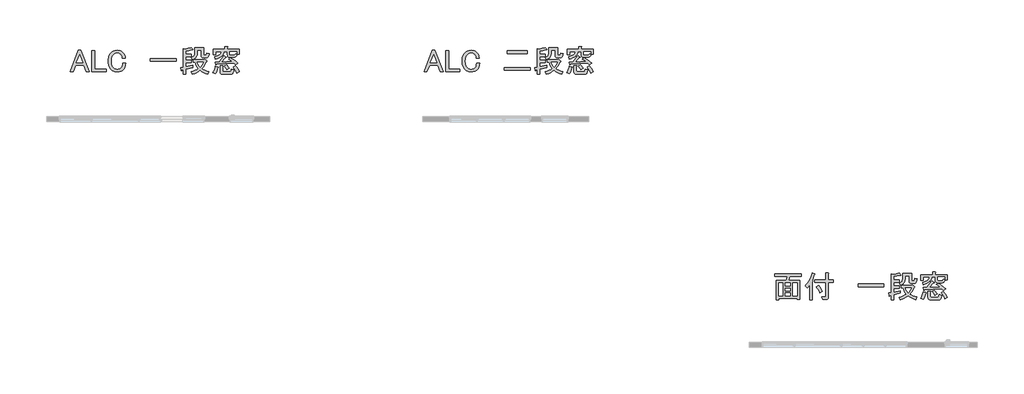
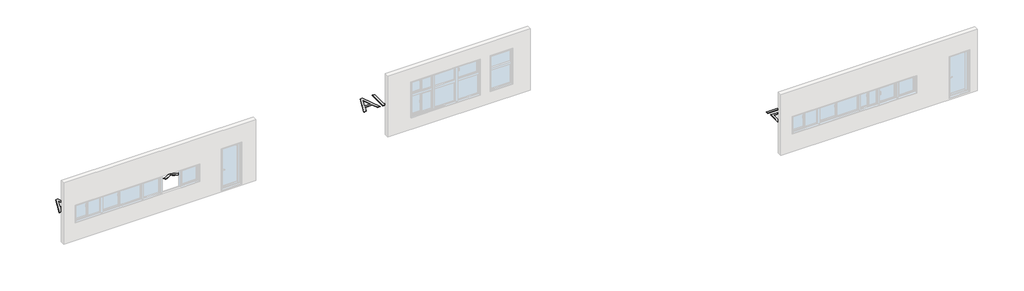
# One storey, part 6 of 9: 3 proxies.
"""IFC4 building model written with IfcOpenShell, lengths in millimetres."""

from ifc_helpers import new_model, si_unit, origin, origin_with_axes, place, context, project, spatial, polyline, outline, extrude, element, save

model = new_model("IFC4")

# Units and contexts
model_context = context("Model", 3, world=origin())
ifc_project = project(units=[si_unit("LENGTHUNIT", "METRE", prefix="MILLI")], contexts=[model_context])

# Site, building, storey
site = spatial("IfcSite", under=ifc_project)
building = spatial("IfcBuilding", under=site)
storey = spatial("IfcBuildingStorey", under=building, Name="レベル 1", Elevation=0.0)

# Proxies
placement = place(None, origin())
element("IfcBuildingElementProxy", 1, Name="600mm Arial", ObjectType="600mm Arial", at=placement, inside=storey, context=model_context, shape_type="SweptSolid", body=[
    extrude(outline(polyline([(188848.2462763, -5796.3801084), (189180.0238122, -4952.2990244), (189277.6054404, -4952.2990244), (189609.3829763, -5796.3801084), (189492.2850225, -5796.3801084), (189389.8243129, -5549.6937523), (189067.8049397, -5549.6937523), (188965.3442301, -5796.3801084), (188848.2462763, -5796.3801084)]), holes=[polyline([(189228.8146263, -5113.3087109), (189101.9585096, -5449.9653283), (189355.670743, -5449.9653283), (189228.8146263, -5113.3087109)])]), origin_with_axes(), (0.0, 0.0, 1.0), 10.0),
    extrude(outline(polyline([(189718.0889102, -4962.0571872), (189830.3077826, -4962.0571872), (189830.3077826, -5703.6775616), (190279.1832724, -5703.6775616), (190279.1832724, -5803.4059857), (189718.0889102, -5803.4059857), (189718.0889102, -4962.0571872)])), origin_with_axes(), (0.0, 0.0, 1.0), 10.0),
    extrude(outline(polyline([(190363.2986359, -5381.6581885), (190365.2045271, -5329.4367703), (190370.9222006, -5280.1123066), (190380.4516565, -5233.6847976), (190393.7928947, -5190.1542431), (190410.9459153, -5149.5206433), (190431.9107183, -5111.783998), (190456.6873036, -5076.9443073), (190485.2756712, -5045.0015712), (190509.2899, -5023.2744118), (190534.9813131, -5004.4442069), (190562.3499104, -4988.5109567), (190591.3956919, -4975.4746611), (190622.1186576, -4965.33532), (190654.5188076, -4958.0929335), (190724.3506603, -4952.2990244), (190793.5726278, -4957.4830484), (190854.8660881, -4973.0351204), (190882.5396279, -4984.6991744), (190908.231041, -4998.9552404), (190931.9403272, -5015.8033183), (190953.6674866, -5035.2434083), (190992.3951953, -5082.2045669), (191020.754856, -5135.2645773), (191038.7464687, -5194.4234394), (191046.3700334, -5259.6811532), (190929.2720796, -5259.6811532), (190921.6485149, -5211.5002243), (190908.5359836, -5169.4181471), (190889.9344857, -5133.4349217), (190865.8440212, -5103.5505481), (190835.0448198, -5077.9353707), (190801.1961925, -5059.6388154), (190764.2981394, -5048.6608822), (190724.3506603, -5045.0015712), (190681.658698, -5049.2707674), (190641.4062763, -5062.0783561), (190603.5933954, -5083.4243373), (190568.2200552, -5113.3087109), (190547.6364305, -5136.7130546), (190529.7972891, -5163.0143528), (190514.702631, -5192.2126056), (190502.3524561, -5224.307813), (190492.7467646, -5259.299975), (190485.8855564, -5297.1890916), (190480.3965898, -5381.6581885), (190485.8855564, -5466.1272854), (190492.7467646, -5504.016402), (190502.3524561, -5539.008564), (190514.702631, -5571.1037714), (190529.7972891, -5600.3020242), (190547.6364305, -5626.6033225), (190568.2200552, -5650.0076661), (190601.7637399, -5677.7574416), (190638.9667356, -5697.5787099), (190679.8290425, -5709.4714708), (190724.3506603, -5713.4357244), (190770.3969911, -5710.081356), (190810.9543554, -5700.0182506), (190846.022753, -5683.2464082), (190875.6021841, -5659.7658289), (190905.4865577, -5621.952948), (190926.8325389, -5576.8214449), (190939.6401276, -5524.3713198), (190943.9093238, -5464.6025725), (191061.0072777, -5464.6025725), (191053.0787704, -5542.9728177), (191044.9977918, -5578.7273361), (191034.1723299, -5612.1947852), (191020.6023847, -5643.3751648), (191004.2879563, -5672.268475), (190985.2290445, -5698.8747159), (190963.4256495, -5723.1938873), (190941.5460188, -5742.6339773), (190917.3793186, -5759.4820553), (190890.9255491, -5773.7381213), (190862.1847102, -5785.4021753), (190797.8418241, -5800.9542472), (190724.3506603, -5806.1382712), (190654.5188076, -5800.3443621), (190622.1186576, -5793.1019756), (190591.3956919, -5782.9626345), (190562.3499104, -5769.9263389), (190534.9813131, -5753.9930887), (190509.2899, -5735.1628839), (190485.2756712, -5713.4357244), (190456.6873036, -5681.569224), (190431.9107183, -5646.9582402), (190410.9459153, -5609.6027732), (190393.7928947, -5569.5028228), (190380.4516565, -5526.6583892), (190370.9222006, -5481.0694723), (190365.2045271, -5432.736072), (190363.2986359, -5381.6581885)])), origin_with_axes(), (0.0, 0.0, 1.0), 10.0),
    extrude(outline(polyline([(193070.7984924, -5274.3183975), (193070.7984924, -5386.5372699), (192041.3123147, -5386.5372699), (192041.3123147, -5274.3183975), (193070.7984924, -5274.3183975)])), origin_with_axes(), (0.0, 0.0, 1.0), 10.0),
    extrude(outline(polyline([(194334.4805778, -5903.7198995), (194253.3658493, -5873.5305832), (194175.9104319, -5836.6325301), (194102.1143256, -5793.02574), (194031.9775303, -5742.7102129), (193968.549472, -5789.6713715), (193895.3632508, -5832.973219), (193812.4188668, -5872.6157555), (193719.71632, -5908.5989809), (193675.8045873, -5806.1382712), (193765.1527657, -5778.0835531), (193842.9131257, -5747.5892943), (193909.0856673, -5714.6554948), (193963.6703906, -5679.2821546), (193920.6734856, -5620.8185616), (193884.3853176, -5559.4031243), (193854.8058866, -5495.0358428), (193831.9351925, -5427.716717), (193758.7489713, -5427.716717), (193758.7489713, -5327.988293), (194188.1081355, -5327.988293), (194207.6244611, -5308.4719673), (194285.6897637, -5371.9000257), (194295.7528691, -5380.7433607), (194296.6676969, -5387.7570403), (194288.434247, -5392.9410643), (194271.0525195, -5396.2954327), (194232.6297533, -5483.8139555), (194190.5476762, -5560.9644304), (194144.8062879, -5627.7468572), (194095.4055887, -5684.161236), (194153.0397378, -5714.9604374), (194218.6023943, -5743.9299833), (194292.093558, -5771.0698736), (194373.5132291, -5796.3801084), (194334.4805778, -5903.7198995)]), holes=[polyline([(193919.7586579, -5427.716717), (193935.920615, -5475.4341332), (193960.0110795, -5524.322529), (193992.0300513, -5574.3819042), (194031.9775303, -5625.612259), (194070.705239, -5581.4077815), (194103.9439811, -5533.6903653), (194131.6937567, -5482.4600105), (194153.9545656, -5427.716717), (193919.7586579, -5427.716717)])]), origin_with_axes(), (0.0, 0.0, 1.0), 10.0),
    extrude(outline(polyline([(193441.6086796, -4898.6291288), (193501.6823695, -4887.3462531), (193559.9264038, -4873.0139514), (193616.3407826, -4855.6322239), (193670.9255059, -4835.2010705), (193739.2326457, -4913.2663731), (193744.1117271, -4923.6344211), (193739.2326457, -4930.343158), (193724.5954014, -4933.3925839), (193700.1999944, -4932.7826987), (193579.4427295, -4958.3978761), (193451.3668424, -4976.6944314), (193451.3668424, -5108.4296295), (193680.6836687, -5108.4296295), (193680.6836687, -5208.1580535), (193451.3668424, -5208.1580535), (193451.3668424, -5342.6255372), (193685.5627502, -5342.6255372), (193685.5627502, -5442.3539613), (193451.3668424, -5442.3539613), (193451.3668424, -5606.0959334), (193729.4744829, -5547.5469565), (193729.4744829, -5635.3704219), (193451.3668424, -5708.556643), (193451.3668424, -5903.7198995), (193351.6384184, -5903.7198995), (193351.6384184, -5728.0729687), (193300.1153187, -5742.7102129), (193296.7609502, -5756.4326294), (193291.5769262, -5763.4463089), (193284.5632467, -5763.7512515), (193275.7199117, -5757.3474571), (193261.0826674, -5635.3704219), (193351.6384184, -5620.7331776), (193351.6384184, -4879.1128032), (193441.6086796, -4898.6291288)])), origin_with_axes(), (0.0, 0.0, 1.0), 10.0),
    extrude(outline(polyline([(194246.6571124, -5152.3413622), (194269.8327491, -5147.4622808), (194276.8464286, -5141.363429), (194280.8106823, -5132.8250366), (194300.3270079, -5054.759734), (194393.0295547, -5079.155141), (194384.7198692, -5119.682011), (194374.4280568, -5154.8052983), (194362.1541177, -5184.525003), (194347.8980517, -5208.8411249), (194331.6598589, -5227.7536643), (194313.4395392, -5241.2626209), (194293.2370927, -5249.3679949), (194271.0525195, -5252.0697862), (194168.5918098, -5252.0697862), (194147.5050299, -5250.6640009), (194129.2298205, -5246.4466449), (194113.7661819, -5239.4177183), (194101.1141139, -5229.5772209), (194091.2736166, -5216.925153), (194084.2446899, -5201.4615143), (194080.0273339, -5183.186305), (194078.6215486, -5162.099525), (194078.6215486, -4949.5667388), (193910.0004951, -4949.5667388), (193910.0004951, -5093.7923853), (193907.1035405, -5134.6546921), (193898.4126767, -5171.8576878), (193883.9279038, -5205.4013725), (193863.6492217, -5235.2857462), (193837.5766304, -5261.5108088), (193805.7101299, -5284.0765603), (193768.0497203, -5302.9830008), (193724.5954014, -5318.2301302), (193685.5627502, -5230.4066648), (193714.7914972, -5221.7920367), (193740.123078, -5210.5853965), (193761.5574926, -5196.7867444), (193779.0947408, -5180.3960803), (193792.7348228, -5161.4134042), (193802.4777385, -5139.8387161), (193808.3234879, -5115.672016), (193810.272071, -5088.9133039), (193810.272071, -4849.8383147), (194178.3499726, -4849.8383147), (194178.3499726, -5113.3087109), (194180.4845708, -5130.3854959), (194186.8883651, -5142.5831994), (194197.5613557, -5149.9018215), (194212.5035425, -5152.3413622), (194246.6571124, -5152.3413622)])), origin_with_axes(), (0.0, 0.0, 1.0), 10.0),
    extrude(outline(polyline([(195583.525419, -4913.2663731), (195583.525419, -5103.5505481), (195500.581035, -5103.5505481), (195485.028963, -5154.5247511), (195474.7371506, -5174.5503309), (195462.768154, -5190.9348962), (195449.1219732, -5203.6784469), (195433.7986082, -5212.7809832), (195416.7980589, -5218.2425049), (195398.1203253, -5220.0630122), (195193.1989061, -5220.0630122), (195160.2407112, -5214.6106387), (195147.2928489, -5207.7951719), (195136.6991434, -5198.2535183), (195128.4595946, -5185.985678), (195122.5742027, -5170.9916509), (195117.8658891, -5132.8250366), (195117.8658891, -5000.5043487), (194973.6402426, -5000.5043487), (194967.3126839, -5049.7678238), (194950.7695485, -5095.7806109), (194924.0108364, -5138.5427101), (194887.0365476, -5178.0541212), (194839.846682, -5214.3148444), (194782.4412398, -5247.3248796), (194714.8202209, -5277.0842267), (194636.9836253, -5303.5928859), (194607.7091368, -5210.8903391), (194670.6035456, -5192.2766436), (194725.1120332, -5171.4673613), (194771.2345997, -5148.4624925), (194808.971245, -5123.262037), (194838.3219691, -5095.8659949), (194859.286772, -5066.2743661), (194871.8656538, -5034.4871507), (194876.0586144, -5000.5043487), (194646.7417881, -5000.5043487), (194646.7417881, -5127.9459552), (194547.013364, -5127.9459552), (194547.013364, -4913.2663731), (195010.5260981, -4913.2663731), (195010.5260981, -4796.1684192), (195105.3754407, -4796.1684192), (195120.3176275, -4799.8277303), (195126.1115367, -4805.926582), (195122.7571682, -4814.4649745), (195110.2545221, -4825.4429077), (195110.2545221, -4913.2663731), (195583.525419, -4913.2663731)]), holes=[polyline([(195368.8458369, -5132.8250366), (195384.3979089, -5129.1657255), (195396.900555, -5118.1877923), (195406.3537752, -5099.891237), (195412.7575696, -5074.2760596), (195483.7969949, -5093.7923853), (195483.7969949, -5000.5043487), (195217.5943131, -5000.5043487), (195217.5943131, -5103.5505481), (195219.4239687, -5116.3581368), (195224.9129353, -5125.5064144), (195234.0612129, -5130.995381), (195246.8688016, -5132.8250366), (195368.8458369, -5132.8250366)])]), origin_with_axes(), (0.0, 0.0, 1.0), 10.0),
    extrude(outline(polyline([(194915.0912657, -5900.9876139), (194894.0044857, -5899.5818285), (194875.7292764, -5895.3644725), (194860.2656377, -5888.3355459), (194847.6135698, -5878.4950486), (194837.7730724, -5865.8429806), (194830.7441458, -5850.3793419), (194826.5267898, -5832.1041326), (194825.1210045, -5811.0173527), (194825.1210045, -5567.0632821), (194919.9703471, -5567.0632821), (194934.9125339, -5570.7225932), (194940.7064431, -5576.8214449), (194937.3520746, -5585.3598374), (194924.8494285, -5596.3377706), (194924.8494285, -5767.10562), (194926.679084, -5782.0478068), (194932.1680506, -5792.7207974), (194941.3163283, -5799.1245917), (194954.123917, -5801.2591898), (195212.7152317, -5801.2591898), (195224.2268144, -5799.5820056), (195234.3661555, -5794.5504529), (195250.5281127, -5774.4242421), (195261.2011033, -5740.8805574), (195266.3851273, -5693.9193988), (195373.7249183, -5718.3148059), (195368.8458369, -5761.1287452), (195361.5272148, -5798.2341594), (195351.7690519, -5829.6310482), (195339.5713484, -5855.3194119), (195324.9341042, -5875.2992502), (195307.8573192, -5889.5705634), (195288.3409936, -5898.1333512), (195266.3851273, -5900.9876139), (194915.0912657, -5900.9876139)])), origin_with_axes(), (0.0, 0.0, 1.0), 10.0),
    extrude(outline(polyline([(194680.895358, -5508.5143052), (194677.5409895, -5522.2367217), (194672.3569655, -5529.2504012), (194665.343286, -5529.5553438), (194656.4999509, -5523.1515494), (194632.1045438, -5415.8117584), (194783.3560676, -5415.8117584), (194968.7611612, -5157.2204436), (195066.3427894, -5215.7694205), (195066.647732, -5225.832526), (195062.6834784, -5231.6264351), (195054.4500285, -5233.1511481), (195041.9473824, -5230.4066648), (194876.0586144, -5415.8117584), (195295.6596157, -5391.4163513), (195228.5722463, -5338.9662262), (195163.9244176, -5298.7138045), (195227.352476, -5245.043909), (195290.1706491, -5274.9282826), (195361.5272148, -5320.6696709), (195441.4221729, -5382.2680737), (195529.8555234, -5459.7234911), (195442.032058, -5528.0306308), (195373.7249183, -5459.7234911), (194680.895358, -5508.5143052)])), origin_with_axes(), (0.0, 0.0, 1.0), 10.0),
    extrude(outline(polyline([(195432.2738952, -5567.0632821), (195480.7597667, -5621.952948), (195523.7566717, -5679.2821546), (195561.26461, -5739.0509019), (195593.2835818, -5801.2591898), (195495.7019536, -5864.6872482), (195464.9027522, -5796.3801084), (195431.0541249, -5732.9520501), (195394.1560717, -5674.4030732), (195354.2085926, -5620.7331776), (195432.2738952, -5567.0632821)])), origin_with_axes(), (0.0, 0.0, 1.0), 10.0),
    extrude(outline(polyline([(195095.6172779, -5723.1938873), (195077.9306078, -5690.2600877), (195054.1450859, -5654.8867475), (194988.2774868, -5576.8214449), (195071.2218708, -5523.1515494), (195102.3260148, -5549.9864972), (195132.2103885, -5581.7005264), (195160.8749917, -5618.2936369), (195188.3198247, -5659.7658289), (195095.6172779, -5723.1938873)])), origin_with_axes(), (0.0, 0.0, 1.0), 10.0),
    extrude(outline(polyline([(194539.401997, -5840.2918411), (194575.0802799, -5771.0698736), (194604.0498257, -5704.897332), (194626.3106347, -5641.7742162), (194641.8627067, -5581.7005264), (194739.4443349, -5615.8540962), (194746.4580144, -5623.1727183), (194747.9827274, -5630.4913405), (194744.0184737, -5637.8099626), (194734.5652535, -5645.1285847), (194715.658813, -5711.6060689), (194693.0930615, -5774.4242421), (194666.8679989, -5833.5831042), (194636.9836253, -5889.0826552), (194539.401997, -5840.2918411)])), origin_with_axes(), (0.0, 0.0, 1.0), 10.0),
])
element("IfcBuildingElementProxy", 2, Name="600mm Arial", ObjectType="600mm Arial", at=placement, inside=storey, context=model_context, shape_type="SweptSolid", body=[
    extrude(outline(polyline([(202953.1892913, -5796.3801084), (203284.9668273, -4952.2990244), (203382.5484555, -4952.2990244), (203714.3259914, -5796.3801084), (203597.2280376, -5796.3801084), (203494.7673279, -5549.6937523), (203172.7479548, -5549.6937523), (203070.2872452, -5796.3801084), (202953.1892913, -5796.3801084)]), holes=[polyline([(203333.7576414, -5113.3087109), (203206.9015247, -5449.9653283), (203460.6137581, -5449.9653283), (203333.7576414, -5113.3087109)])]), origin_with_axes(), (0.0, 0.0, 1.0), 10.0),
    extrude(outline(polyline([(203823.0319253, -4962.0571872), (203935.2507977, -4962.0571872), (203935.2507977, -5703.6775616), (204384.1262875, -5703.6775616), (204384.1262875, -5803.4059857), (203823.0319253, -5803.4059857), (203823.0319253, -4962.0571872)])), origin_with_axes(), (0.0, 0.0, 1.0), 10.0),
    extrude(outline(polyline([(204468.241651, -5381.6581885), (204470.1475422, -5329.4367703), (204475.8652157, -5280.1123066), (204485.3946716, -5233.6847976), (204498.7359098, -5190.1542431), (204515.8889304, -5149.5206433), (204536.8537334, -5111.783998), (204561.6303186, -5076.9443073), (204590.2186863, -5045.0015712), (204614.2329151, -5023.2744118), (204639.9243282, -5004.4442069), (204667.2929254, -4988.5109567), (204696.338707, -4975.4746611), (204727.0616727, -4965.33532), (204759.4618227, -4958.0929335), (204829.2936754, -4952.2990244), (204898.5156429, -4957.4830484), (204959.8091032, -4973.0351204), (204987.482643, -4984.6991744), (205013.1740561, -4998.9552404), (205036.8833423, -5015.8033183), (205058.6105017, -5035.2434083), (205097.3382104, -5082.2045669), (205125.6978711, -5135.2645773), (205143.6894838, -5194.4234394), (205151.3130485, -5259.6811532), (205034.2150947, -5259.6811532), (205026.59153, -5211.5002243), (205013.4789987, -5169.4181471), (204994.8775008, -5133.4349217), (204970.7870363, -5103.5505481), (204939.9878349, -5077.9353707), (204906.1392076, -5059.6388154), (204869.2411545, -5048.6608822), (204829.2936754, -5045.0015712), (204786.6017131, -5049.2707674), (204746.3492914, -5062.0783561), (204708.5364105, -5083.4243373), (204673.1630703, -5113.3087109), (204652.5794456, -5136.7130546), (204634.7403042, -5163.0143528), (204619.645646, -5192.2126056), (204607.2954712, -5224.307813), (204597.6897797, -5259.299975), (204590.8285715, -5297.1890916), (204585.3396049, -5381.6581885), (204590.8285715, -5466.1272854), (204597.6897797, -5504.016402), (204607.2954712, -5539.008564), (204619.645646, -5571.1037714), (204634.7403042, -5600.3020242), (204652.5794456, -5626.6033225), (204673.1630703, -5650.0076661), (204706.706755, -5677.7574416), (204743.9097507, -5697.5787099), (204784.7720575, -5709.4714708), (204829.2936754, -5713.4357244), (204875.3400062, -5710.081356), (204915.8973705, -5700.0182506), (204950.9657681, -5683.2464082), (204980.5451991, -5659.7658289), (205010.4295728, -5621.952948), (205031.775554, -5576.8214449), (205044.5831427, -5524.3713198), (205048.8523389, -5464.6025725), (205165.9502928, -5464.6025725), (205158.0217855, -5542.9728177), (205149.9408069, -5578.7273361), (205139.115345, -5612.1947852), (205125.5453998, -5643.3751648), (205109.2309714, -5672.268475), (205090.1720596, -5698.8747159), (205068.3686645, -5723.1938873), (205046.4890338, -5742.6339773), (205022.3223337, -5759.4820553), (204995.8685642, -5773.7381213), (204967.1277253, -5785.4021753), (204902.7848392, -5800.9542472), (204829.2936754, -5806.1382712), (204759.4618227, -5800.3443621), (204727.0616727, -5793.1019756), (204696.338707, -5782.9626345), (204667.2929254, -5769.9263389), (204639.9243282, -5753.9930887), (204614.2329151, -5735.1628839), (204590.2186863, -5713.4357244), (204561.6303186, -5681.569224), (204536.8537334, -5646.9582402), (204515.8889304, -5609.6027732), (204498.7359098, -5569.5028228), (204485.3946716, -5526.6583892), (204475.8652157, -5481.0694723), (204470.1475422, -5432.736072), (204468.241651, -5381.6581885)])), origin_with_axes(), (0.0, 0.0, 1.0), 10.0),
    extrude(outline(polyline([(207073.2807979, -4971.81535), (207073.2807979, -5084.0342225), (206273.1114465, -5084.0342225), (206273.1114465, -4971.81535), (207073.2807979, -4971.81535)])), origin_with_axes(), (0.0, 0.0, 1.0), 10.0),
    extrude(outline(polyline([(207195.2578331, -5635.3704219), (207195.2578331, -5747.5892943), (206141.3762484, -5747.5892943), (206141.3762484, -5635.3704219), (207195.2578331, -5635.3704219)])), origin_with_axes(), (0.0, 0.0, 1.0), 10.0),
    extrude(outline(polyline([(208439.4235929, -5903.7198995), (208358.3088644, -5873.5305832), (208280.853447, -5836.6325301), (208207.0573407, -5793.02574), (208136.9205454, -5742.7102129), (208073.4924871, -5789.6713715), (208000.3062659, -5832.973219), (207917.3618819, -5872.6157555), (207824.6593351, -5908.5989809), (207780.7476024, -5806.1382712), (207870.0957808, -5778.0835531), (207947.8561407, -5747.5892943), (208014.0286824, -5714.6554948), (208068.6134057, -5679.2821546), (208025.6165007, -5620.8185616), (207989.3283327, -5559.4031243), (207959.7489017, -5495.0358428), (207936.8782076, -5427.716717), (207863.6919864, -5427.716717), (207863.6919864, -5327.988293), (208293.0511506, -5327.988293), (208312.5674762, -5308.4719673), (208390.6327788, -5371.9000257), (208400.6958842, -5380.7433607), (208401.6107119, -5387.7570403), (208393.3772621, -5392.9410643), (208375.9955345, -5396.2954327), (208337.5727684, -5483.8139555), (208295.4906913, -5560.9644304), (208249.749303, -5627.7468572), (208200.3486038, -5684.161236), (208257.9827529, -5714.9604374), (208323.5454094, -5743.9299833), (208397.0365731, -5771.0698736), (208478.4562442, -5796.3801084), (208439.4235929, -5903.7198995)]), holes=[polyline([(208024.701673, -5427.716717), (208040.8636301, -5475.4341332), (208064.9540946, -5524.322529), (208096.9730664, -5574.3819042), (208136.9205454, -5625.612259), (208175.6482541, -5581.4077815), (208208.8869962, -5533.6903653), (208236.6367717, -5482.4600105), (208258.8975807, -5427.716717), (208024.701673, -5427.716717)])]), origin_with_axes(), (0.0, 0.0, 1.0), 10.0),
    extrude(outline(polyline([(207546.5516947, -4898.6291288), (207606.6253846, -4887.3462531), (207664.8694189, -4873.0139514), (207721.2837977, -4855.6322239), (207775.868521, -4835.2010705), (207844.1756608, -4913.2663731), (207849.0547422, -4923.6344211), (207844.1756608, -4930.343158), (207829.5384165, -4933.3925839), (207805.1430095, -4932.7826987), (207684.3857446, -4958.3978761), (207556.3098575, -4976.6944314), (207556.3098575, -5108.4296295), (207785.6266838, -5108.4296295), (207785.6266838, -5208.1580535), (207556.3098575, -5208.1580535), (207556.3098575, -5342.6255372), (207790.5057652, -5342.6255372), (207790.5057652, -5442.3539613), (207556.3098575, -5442.3539613), (207556.3098575, -5606.0959334), (207834.4174979, -5547.5469565), (207834.4174979, -5635.3704219), (207556.3098575, -5708.556643), (207556.3098575, -5903.7198995), (207456.5814335, -5903.7198995), (207456.5814335, -5728.0729687), (207405.0583338, -5742.7102129), (207401.7039653, -5756.4326294), (207396.5199413, -5763.4463089), (207389.5062618, -5763.7512515), (207380.6629267, -5757.3474571), (207366.0256825, -5635.3704219), (207456.5814335, -5620.7331776), (207456.5814335, -4879.1128032), (207546.5516947, -4898.6291288)])), origin_with_axes(), (0.0, 0.0, 1.0), 10.0),
    extrude(outline(polyline([(208351.6001275, -5152.3413622), (208374.7757642, -5147.4622808), (208381.7894437, -5141.363429), (208385.7536974, -5132.8250366), (208405.270023, -5054.759734), (208497.9725698, -5079.155141), (208489.6628843, -5119.682011), (208479.3710719, -5154.8052983), (208467.0971328, -5184.525003), (208452.8410668, -5208.8411249), (208436.6028739, -5227.7536643), (208418.3825543, -5241.2626209), (208398.1801078, -5249.3679949), (208375.9955345, -5252.0697862), (208273.5348249, -5252.0697862), (208252.4480449, -5250.6640009), (208234.1728356, -5246.4466449), (208218.709197, -5239.4177183), (208206.057129, -5229.5772209), (208196.2166317, -5216.925153), (208189.187705, -5201.4615143), (208184.970349, -5183.186305), (208183.5645637, -5162.099525), (208183.5645637, -4949.5667388), (208014.9435101, -4949.5667388), (208014.9435101, -5093.7923853), (208012.0465556, -5134.6546921), (208003.3556918, -5171.8576878), (207988.8709189, -5205.4013725), (207968.5922367, -5235.2857462), (207942.5196454, -5261.5108088), (207910.653145, -5284.0765603), (207872.9927353, -5302.9830008), (207829.5384165, -5318.2301302), (207790.5057652, -5230.4066648), (207819.7345123, -5221.7920367), (207845.0660931, -5210.5853965), (207866.5005076, -5196.7867444), (207884.0377559, -5180.3960803), (207897.6778379, -5161.4134042), (207907.4207536, -5139.8387161), (207913.266503, -5115.672016), (207915.2150861, -5088.9133039), (207915.2150861, -4849.8383147), (208283.2929877, -4849.8383147), (208283.2929877, -5113.3087109), (208285.4275859, -5130.3854959), (208291.8313802, -5142.5831994), (208302.5043708, -5149.9018215), (208317.4465576, -5152.3413622), (208351.6001275, -5152.3413622)])), origin_with_axes(), (0.0, 0.0, 1.0), 10.0),
    extrude(outline(polyline([(209688.468434, -4913.2663731), (209688.468434, -5103.5505481), (209605.5240501, -5103.5505481), (209589.9719781, -5154.5247511), (209579.6801657, -5174.5503309), (209567.7111691, -5190.9348962), (209554.0649883, -5203.6784469), (209538.7416232, -5212.7809832), (209521.741074, -5218.2425049), (209503.0633404, -5220.0630122), (209298.1419212, -5220.0630122), (209265.1837262, -5214.6106387), (209252.235864, -5207.7951719), (209241.6421584, -5198.2535183), (209233.4026097, -5185.985678), (209227.5172178, -5170.9916509), (209222.8089042, -5132.8250366), (209222.8089042, -5000.5043487), (209078.5832577, -5000.5043487), (209072.255699, -5049.7678238), (209055.7125636, -5095.7806109), (209028.9538515, -5138.5427101), (208991.9795626, -5178.0541212), (208944.7896971, -5214.3148444), (208887.3842549, -5247.3248796), (208819.763236, -5277.0842267), (208741.9266403, -5303.5928859), (208712.6521519, -5210.8903391), (208775.5465607, -5192.2766436), (208830.0550483, -5171.4673613), (208876.1776148, -5148.4624925), (208913.9142601, -5123.262037), (208943.2649842, -5095.8659949), (208964.2297871, -5066.2743661), (208976.8086689, -5034.4871507), (208981.0016295, -5000.5043487), (208751.6848032, -5000.5043487), (208751.6848032, -5127.9459552), (208651.9563791, -5127.9459552), (208651.9563791, -4913.2663731), (209115.4691132, -4913.2663731), (209115.4691132, -4796.1684192), (209210.3184558, -4796.1684192), (209225.2606426, -4799.8277303), (209231.0545518, -4805.926582), (209227.7001833, -4814.4649745), (209215.1975372, -4825.4429077), (209215.1975372, -4913.2663731), (209688.468434, -4913.2663731)]), holes=[polyline([(209473.788852, -5132.8250366), (209489.340924, -5129.1657255), (209501.8435701, -5118.1877923), (209511.2967903, -5099.891237), (209517.7005847, -5074.2760596), (209588.74001, -5093.7923853), (209588.74001, -5000.5043487), (209322.5373282, -5000.5043487), (209322.5373282, -5103.5505481), (209324.3669838, -5116.3581368), (209329.8559503, -5125.5064144), (209339.004228, -5130.995381), (209351.8118167, -5132.8250366), (209473.788852, -5132.8250366)])]), origin_with_axes(), (0.0, 0.0, 1.0), 10.0),
    extrude(outline(polyline([(209020.0342808, -5900.9876139), (208998.9475008, -5899.5818285), (208980.6722915, -5895.3644725), (208965.2086528, -5888.3355459), (208952.5565849, -5878.4950486), (208942.7160875, -5865.8429806), (208935.6871609, -5850.3793419), (208931.4698049, -5832.1041326), (208930.0640195, -5811.0173527), (208930.0640195, -5567.0632821), (209024.9133622, -5567.0632821), (209039.855549, -5570.7225932), (209045.6494582, -5576.8214449), (209042.2950897, -5585.3598374), (209029.7924436, -5596.3377706), (209029.7924436, -5767.10562), (209031.6220991, -5782.0478068), (209037.1110657, -5792.7207974), (209046.2593433, -5799.1245917), (209059.066932, -5801.2591898), (209317.6582468, -5801.2591898), (209329.1698295, -5799.5820056), (209339.3091706, -5794.5504529), (209355.4711278, -5774.4242421), (209366.1441183, -5740.8805574), (209371.3281423, -5693.9193988), (209478.6679334, -5718.3148059), (209473.788852, -5761.1287452), (209466.4702298, -5798.2341594), (209456.712067, -5829.6310482), (209444.5143635, -5855.3194119), (209429.8771193, -5875.2992502), (209412.8003343, -5889.5705634), (209393.2840087, -5898.1333512), (209371.3281423, -5900.9876139), (209020.0342808, -5900.9876139)])), origin_with_axes(), (0.0, 0.0, 1.0), 10.0),
    extrude(outline(polyline([(208785.838373, -5508.5143052), (208782.4840046, -5522.2367217), (208777.2999806, -5529.2504012), (208770.286301, -5529.5553438), (208761.442966, -5523.1515494), (208737.0475589, -5415.8117584), (208888.2990827, -5415.8117584), (209073.7041763, -5157.2204436), (209171.2858045, -5215.7694205), (209171.5907471, -5225.832526), (209167.6264934, -5231.6264351), (209159.3930436, -5233.1511481), (209146.8903974, -5230.4066648), (208981.0016295, -5415.8117584), (209400.6026308, -5391.4163513), (209333.5152614, -5338.9662262), (209268.8674327, -5298.7138045), (209332.2954911, -5245.043909), (209395.1136642, -5274.9282826), (209466.4702298, -5320.6696709), (209546.3651879, -5382.2680737), (209634.7985385, -5459.7234911), (209546.9750731, -5528.0306308), (209478.6679334, -5459.7234911), (208785.838373, -5508.5143052)])), origin_with_axes(), (0.0, 0.0, 1.0), 10.0),
    extrude(outline(polyline([(209537.2169103, -5567.0632821), (209585.7027818, -5621.952948), (209628.6996868, -5679.2821546), (209666.2076251, -5739.0509019), (209698.2265969, -5801.2591898), (209600.6449686, -5864.6872482), (209569.8457672, -5796.3801084), (209535.99714, -5732.9520501), (209499.0990868, -5674.4030732), (209459.1516077, -5620.7331776), (209537.2169103, -5567.0632821)])), origin_with_axes(), (0.0, 0.0, 1.0), 10.0),
    extrude(outline(polyline([(209200.560293, -5723.1938873), (209182.8736228, -5690.2600877), (209159.088101, -5654.8867475), (209093.2205019, -5576.8214449), (209176.1648859, -5523.1515494), (209207.2690299, -5549.9864972), (209237.1534035, -5581.7005264), (209265.8180068, -5618.2936369), (209293.2628398, -5659.7658289), (209200.560293, -5723.1938873)])), origin_with_axes(), (0.0, 0.0, 1.0), 10.0),
    extrude(outline(polyline([(208644.3450121, -5840.2918411), (208680.0232949, -5771.0698736), (208708.9928408, -5704.897332), (208731.2536498, -5641.7742162), (208746.8057218, -5581.7005264), (208844.38735, -5615.8540962), (208851.4010295, -5623.1727183), (208852.9257424, -5630.4913405), (208848.9614888, -5637.8099626), (208839.5082686, -5645.1285847), (208820.6018281, -5711.6060689), (208798.0360766, -5774.4242421), (208771.811014, -5833.5831042), (208741.9266403, -5889.0826552), (208644.3450121, -5840.2918411)])), origin_with_axes(), (0.0, 0.0, 1.0), 10.0),
])
element("IfcBuildingElementProxy", 3, Name="600mm Arial", ObjectType="600mm Arial", at=placement, inside=storey, context=model_context, shape_type="SweptSolid", body=[
    extrude(outline(polyline([(217926.523268, -14884.2035738), (217826.794844, -14884.2035738), (217826.794844, -14842.4386369), (217082.442184, -14842.4386369), (217082.442184, -14903.7198995), (216982.7137599, -14903.7198995), (216982.7137599, -14132.8250366), (217384.9452314, -14132.8250366), (217423.9778827, -13978.8412272), (216926.3115788, -13978.8412272), (216926.3115788, -13879.1128032), (217985.072245, -13879.1128032), (217985.072245, -13978.8412272), (217536.1967552, -13978.8412272), (217482.5268597, -14132.8250366), (217926.523268, -14132.8250366), (217926.523268, -14884.2035738)]), holes=[polyline([(217251.0632375, -14742.7102129), (217251.0632375, -14232.5534606), (217082.442184, -14232.5534606), (217082.442184, -14742.7102129), (217251.0632375, -14742.7102129)]), polyline([(217558.4453664, -14742.7102129), (217558.4453664, -14629.9058507), (217350.7916616, -14629.9058507), (217350.7916616, -14742.7102129), (217558.4453664, -14742.7102129)]), polyline([(217558.4453664, -14542.6678751), (217558.4453664, -14439.6216757), (217350.7916616, -14439.6216757), (217350.7916616, -14542.6678751), (217558.4453664, -14542.6678751)]), polyline([(217558.4453664, -14232.5534606), (217350.7916616, -14232.5534606), (217350.7916616, -14352.3837), (217558.4453664, -14352.3837), (217558.4453664, -14232.5534606)]), polyline([(217826.794844, -14232.5534606), (217658.1737904, -14232.5534606), (217658.1737904, -14742.7102129), (217826.794844, -14742.7102129), (217826.794844, -14232.5534606)])]), origin_with_axes(), (0.0, 0.0, 1.0), 10.0),
    extrude(outline(polyline([(218507.1339559, -13898.6291288), (218490.6670562, -13959.6176465), (218470.5408453, -14020.6061641), (218446.7553235, -14081.5946817), (218419.3104905, -14142.5831994), (218438.216931, -14148.6820511), (218446.1454383, -14157.2204436), (218443.0960124, -14168.1983768), (218429.0686533, -14181.6158507), (218429.0686533, -14903.7198995), (218329.3402293, -14903.7198995), (218329.3402293, -14298.7138045), (218276.7925225, -14370.6802553), (218224.1472341, -14430.4490026), (218146.0819315, -14342.6255372), (218196.2449873, -14290.8615329), (218241.8339042, -14235.5906888), (218282.8486823, -14176.8130049), (218319.2893216, -14114.5284813), (218351.1558221, -14048.7371179), (218378.4481837, -13979.4389147), (218401.1664065, -13906.6338718), (218419.3104905, -13830.3219891), (218521.7712002, -13869.3546404), (218528.1749945, -13878.502918), (218527.8700519, -13886.4314253), (218520.8563724, -13893.1401623), (218507.1339559, -13898.6291288)])), origin_with_axes(), (0.0, 0.0, 1.0), 10.0),
    extrude(outline(polyline([(218958.7417313, -14113.3087109), (218958.7417313, -13835.2010705), (219053.5910739, -13835.2010705), (219068.5332607, -13838.8603816), (219074.3271699, -13844.9592333), (219070.9728015, -13853.4976258), (219058.4701553, -13864.475559), (219058.4701553, -14113.3087109), (219258.5124932, -14113.3087109), (219258.5124932, -14213.037135), (219058.4701553, -14213.037135), (219058.4701553, -14811.0173527), (219053.5910739, -14848.2447438), (219047.4922222, -14862.8697904), (219038.9538297, -14874.8357375), (219027.9758965, -14884.1425853), (219014.5584226, -14890.7903337), (218980.4048528, -14896.1085325), (218834.0324104, -14896.1085325), (218809.6370034, -14796.3801084), (218941.3722015, -14796.3801084), (218954.3993488, -14791.501027), (218958.7417313, -14776.8637828), (218958.7417313, -14213.037135), (218521.7712002, -14213.037135), (218521.7712002, -14113.3087109), (218958.7417313, -14113.3087109)])), origin_with_axes(), (0.0, 0.0, 1.0), 10.0),
    extrude(outline(polyline([(218677.9018053, -14332.8673744), (218718.4591695, -14385.6224422), (218757.1868782, -14441.4269358), (218829.153329, -14562.1842007), (218731.5717008, -14625.612259), (218696.8082458, -14557.9150045), (218660.8250204, -14496.3166017), (218623.6220246, -14440.8170506), (218585.1992585, -14391.4163513), (218677.9018053, -14332.8673744)])), origin_with_axes(), (0.0, 0.0, 1.0), 10.0),
    extrude(outline(polyline([(221283.1361154, -14274.3183975), (221283.1361154, -14386.5372699), (220253.6499377, -14386.5372699), (220253.6499377, -14274.3183975), (221283.1361154, -14274.3183975)])), origin_with_axes(), (0.0, 0.0, 1.0), 10.0),
    extrude(outline(polyline([(222458.9947354, -14152.3413622), (222482.1703721, -14147.4622808), (222489.1840516, -14141.363429), (222493.1483053, -14132.8250366), (222512.6646309, -14054.759734), (222605.3671777, -14079.155141), (222597.0574922, -14119.682011), (222586.7656798, -14154.8052983), (222574.4917407, -14184.525003), (222560.2356747, -14208.8411249), (222543.9974818, -14227.7536643), (222525.7771622, -14241.2626209), (222505.5747157, -14249.3679949), (222483.3901424, -14252.0697862), (222380.9294328, -14252.0697862), (222359.8426529, -14250.6640009), (222341.5674435, -14246.4466449), (222326.1038049, -14239.4177183), (222313.4517369, -14229.5772209), (222303.6112396, -14216.925153), (222296.5823129, -14201.4615143), (222292.3649569, -14183.186305), (222290.9591716, -14162.099525), (222290.9591716, -13949.5667388), (222122.3381181, -13949.5667388), (222122.3381181, -14093.7923853), (222119.4411635, -14134.6546921), (222110.7502997, -14171.8576878), (222096.2655268, -14205.4013725), (222075.9868446, -14235.2857462), (222049.9142534, -14261.5108088), (222018.0477529, -14284.0765603), (221980.3873433, -14302.9830008), (221936.9330244, -14318.2301302), (221897.9003732, -14230.4066648), (221927.1291202, -14221.7920367), (221952.460701, -14210.5853965), (221973.8951156, -14196.7867444), (221991.4323638, -14180.3960803), (222005.0724458, -14161.4134042), (222014.8153615, -14139.8387161), (222020.6611109, -14115.672016), (222022.609694, -14088.9133039), (222022.609694, -13849.8383147), (222390.6875956, -13849.8383147), (222390.6875956, -14113.3087109), (222392.8221938, -14130.3854959), (222399.2259881, -14142.5831994), (222409.8989787, -14149.9018215), (222424.8411655, -14152.3413622), (222458.9947354, -14152.3413622)])), origin_with_axes(), (0.0, 0.0, 1.0), 10.0),
    extrude(outline(polyline([(221653.9463026, -13898.6291288), (221714.0199925, -13887.3462531), (221772.2640268, -13873.0139514), (221828.6784056, -13855.6322239), (221883.2631289, -13835.2010705), (221951.5702687, -13913.2663731), (221956.4493501, -13923.6344211), (221951.5702687, -13930.343158), (221936.9330244, -13933.3925839), (221912.5376174, -13932.7826987), (221791.7803525, -13958.3978761), (221663.7044654, -13976.6944314), (221663.7044654, -14108.4296295), (221893.0212917, -14108.4296295), (221893.0212917, -14208.1580535), (221663.7044654, -14208.1580535), (221663.7044654, -14342.6255372), (221897.9003732, -14342.6255372), (221897.9003732, -14442.3539613), (221663.7044654, -14442.3539613), (221663.7044654, -14606.0959334), (221941.8121059, -14547.5469565), (221941.8121059, -14635.3704219), (221663.7044654, -14708.556643), (221663.7044654, -14903.7198995), (221563.9760414, -14903.7198995), (221563.9760414, -14728.0729687), (221512.4529417, -14742.7102129), (221509.0985732, -14756.4326294), (221503.9145492, -14763.4463089), (221496.9008697, -14763.7512515), (221488.0575346, -14757.3474571), (221473.4202904, -14635.3704219), (221563.9760414, -14620.7331776), (221563.9760414, -13879.1128032), (221653.9463026, -13898.6291288)])), origin_with_axes(), (0.0, 0.0, 1.0), 10.0),
    extrude(outline(polyline([(222546.8182008, -14903.7198995), (222465.7034723, -14873.5305832), (222388.2480549, -14836.6325301), (222314.4519486, -14793.02574), (222244.3151533, -14742.7102129), (222180.887095, -14789.6713715), (222107.7008738, -14832.973219), (222024.7564898, -14872.6157555), (221932.053943, -14908.5989809), (221888.1422103, -14806.1382712), (221977.4903887, -14778.0835531), (222055.2507487, -14747.5892943), (222121.4232903, -14714.6554948), (222176.0080136, -14679.2821546), (222133.0111086, -14620.8185616), (222096.7229406, -14559.4031243), (222067.1435096, -14495.0358428), (222044.2728155, -14427.716717), (221971.0865943, -14427.716717), (221971.0865943, -14327.988293), (222400.4457585, -14327.988293), (222419.9620841, -14308.4719673), (222498.0273867, -14371.9000257), (222508.0904921, -14380.7433607), (222509.0053199, -14387.7570403), (222500.77187, -14392.9410643), (222483.3901424, -14396.2954327), (222444.9673763, -14483.8139555), (222402.8852992, -14560.9644304), (222357.1439109, -14627.7468572), (222307.7432117, -14684.161236), (222365.3773608, -14714.9604374), (222430.9400173, -14743.9299833), (222504.431181, -14771.0698736), (222585.8508521, -14796.3801084), (222546.8182008, -14903.7198995)]), holes=[polyline([(222132.0962809, -14427.716717), (222148.258238, -14475.4341332), (222172.3487025, -14524.322529), (222204.3676743, -14574.3819042), (222244.3151533, -14625.612259), (222283.042862, -14581.4077815), (222316.2816041, -14533.6903653), (222344.0313797, -14482.4600105), (222366.2921886, -14427.716717), (222132.0962809, -14427.716717)])]), origin_with_axes(), (0.0, 0.0, 1.0), 10.0),
    extrude(outline(polyline([(223127.4288887, -14900.9876139), (223106.3421087, -14899.5818285), (223088.0668994, -14895.3644725), (223072.6032607, -14888.3355459), (223059.9511928, -14878.4950486), (223050.1106954, -14865.8429806), (223043.0817688, -14850.3793419), (223038.8644128, -14832.1041326), (223037.4586275, -14811.0173527), (223037.4586275, -14567.0632821), (223132.3079701, -14567.0632821), (223147.2501569, -14570.7225932), (223153.0440661, -14576.8214449), (223149.6896976, -14585.3598374), (223137.1870515, -14596.3377706), (223137.1870515, -14767.10562), (223139.016707, -14782.0478068), (223144.5056736, -14792.7207974), (223153.6539513, -14799.1245917), (223166.46154, -14801.2591898), (223425.0528547, -14801.2591898), (223436.5644374, -14799.5820056), (223446.7037785, -14794.5504529), (223462.8657357, -14774.4242421), (223473.5387262, -14740.8805574), (223478.7227502, -14693.9193988), (223586.0625413, -14718.3148059), (223581.1834599, -14761.1287452), (223573.8648378, -14798.2341594), (223564.1066749, -14829.6310482), (223551.9089714, -14855.3194119), (223537.2717272, -14875.2992502), (223520.1949422, -14889.5705634), (223500.6786166, -14898.1333512), (223478.7227502, -14900.9876139), (223127.4288887, -14900.9876139)])), origin_with_axes(), (0.0, 0.0, 1.0), 10.0),
    extrude(outline(polyline([(222893.232981, -14508.5143052), (222889.8786125, -14522.2367217), (222884.6945885, -14529.2504012), (222877.680909, -14529.5553438), (222868.8375739, -14523.1515494), (222844.4421668, -14415.8117584), (222995.6936906, -14415.8117584), (223181.0987842, -14157.2204436), (223278.6804124, -14215.7694205), (223278.985355, -14225.832526), (223275.0211013, -14231.6264351), (223266.7876515, -14233.1511481), (223254.2850054, -14230.4066648), (223088.3962374, -14415.8117584), (223507.9972387, -14391.4163513), (223440.9098693, -14338.9662262), (223376.2620406, -14298.7138045), (223439.690099, -14245.043909), (223502.5082721, -14274.9282826), (223573.8648378, -14320.6696709), (223653.7597959, -14382.2680737), (223742.1931464, -14459.7234911), (223654.369681, -14528.0306308), (223586.0625413, -14459.7234911), (222893.232981, -14508.5143052)])), origin_with_axes(), (0.0, 0.0, 1.0), 10.0),
    extrude(outline(polyline([(223644.6115182, -14567.0632821), (223693.0973897, -14621.952948), (223736.0942947, -14679.2821546), (223773.602233, -14739.0509019), (223805.6212048, -14801.2591898), (223708.0395766, -14864.6872482), (223677.2403751, -14796.3801084), (223643.3917479, -14732.9520501), (223606.4936947, -14674.4030732), (223566.5462156, -14620.7331776), (223644.6115182, -14567.0632821)])), origin_with_axes(), (0.0, 0.0, 1.0), 10.0),
    extrude(outline(polyline([(223307.9549009, -14723.1938873), (223290.2682308, -14690.2600877), (223266.4827089, -14654.8867475), (223200.6151098, -14576.8214449), (223283.5594938, -14523.1515494), (223314.6636378, -14549.9864972), (223344.5480115, -14581.7005264), (223373.2126147, -14618.2936369), (223400.6574477, -14659.7658289), (223307.9549009, -14723.1938873)])), origin_with_axes(), (0.0, 0.0, 1.0), 10.0),
    extrude(outline(polyline([(222751.73962, -14840.2918411), (222787.4179029, -14771.0698736), (222816.3874487, -14704.897332), (222838.6482577, -14641.7742162), (222854.2003297, -14581.7005264), (222951.7819579, -14615.8540962), (222958.7956374, -14623.1727183), (222960.3203504, -14630.4913405), (222956.3560967, -14637.8099626), (222946.9028765, -14645.1285847), (222927.996436, -14711.6060689), (222905.4306845, -14774.4242421), (222879.2056219, -14833.5831042), (222849.3212483, -14889.0826552), (222751.73962, -14840.2918411)])), origin_with_axes(), (0.0, 0.0, 1.0), 10.0),
    extrude(outline(polyline([(223795.8630419, -13913.2663731), (223795.8630419, -14103.5505481), (223712.918658, -14103.5505481), (223697.366586, -14154.5247511), (223687.0747736, -14174.5503309), (223675.105777, -14190.9348962), (223661.4595962, -14203.6784469), (223646.1362312, -14212.7809832), (223629.1356819, -14218.2425049), (223610.4579483, -14220.0630122), (223405.5365291, -14220.0630122), (223372.5783342, -14214.6106387), (223359.6304719, -14207.7951719), (223349.0367663, -14198.2535183), (223340.7972176, -14185.985678), (223334.9118257, -14170.9916509), (223330.2035121, -14132.8250366), (223330.2035121, -14000.5043487), (223185.9778656, -14000.5043487), (223179.6503069, -14049.7678238), (223163.1071715, -14095.7806109), (223136.3484594, -14138.5427101), (223099.3741706, -14178.0541212), (223052.184305, -14214.3148444), (222994.7788628, -14247.3248796), (222927.1578439, -14277.0842267), (222849.3212483, -14303.5928859), (222820.0467598, -14210.8903391), (222882.9411686, -14192.2766436), (222937.4496562, -14171.4673613), (222983.5722227, -14148.4624925), (223021.308868, -14123.262037), (223050.6595921, -14095.8659949), (223071.624395, -14066.2743661), (223084.2032768, -14034.4871507), (223088.3962374, -14000.5043487), (222859.0794111, -14000.5043487), (222859.0794111, -14127.9459552), (222759.350987, -14127.9459552), (222759.350987, -13913.2663731), (223222.8637211, -13913.2663731), (223222.8637211, -13796.1684192), (223317.7130637, -13796.1684192), (223332.6552505, -13799.8277303), (223338.4491597, -13805.926582), (223335.0947912, -13814.4649745), (223322.5921451, -13825.4429077), (223322.5921451, -13913.2663731), (223795.8630419, -13913.2663731)]), holes=[polyline([(223581.1834599, -14132.8250366), (223596.7355319, -14129.1657255), (223609.238178, -14118.1877923), (223618.6913982, -14099.891237), (223625.0951926, -14074.2760596), (223696.1346179, -14093.7923853), (223696.1346179, -14000.5043487), (223429.9319361, -14000.5043487), (223429.9319361, -14103.5505481), (223431.7615917, -14116.3581368), (223437.2505583, -14125.5064144), (223446.3988359, -14130.995381), (223459.2064246, -14132.8250366), (223581.1834599, -14132.8250366)])]), origin_with_axes(), (0.0, 0.0, 1.0), 10.0),
])

save(model, "model.ifc")
